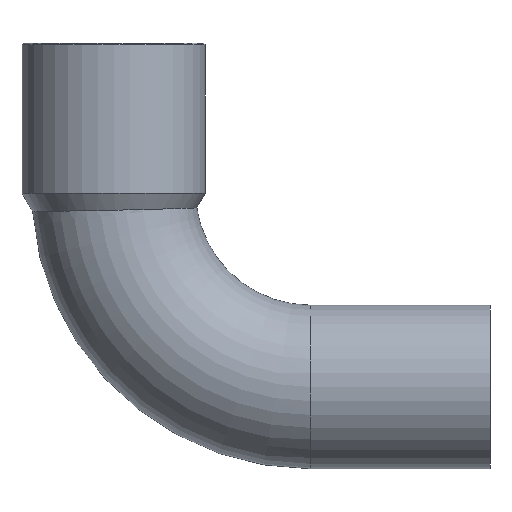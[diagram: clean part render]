
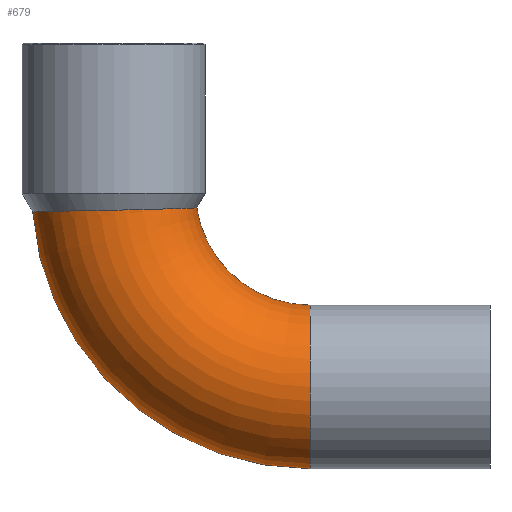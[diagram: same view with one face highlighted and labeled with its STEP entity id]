
A CAD part, front view. The second image highlights one B-rep face of the part: STEP entity #679.
In plain terms, the highlighted toroidal (fillet/blend) face has major radius 12 mm and minor radius 5 mm.
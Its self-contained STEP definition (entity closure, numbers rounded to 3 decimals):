
#49=CARTESIAN_POINT('',(5.084,0.,-1.284));
#50=VERTEX_POINT('',#49);
#51=CARTESIAN_POINT('',(22.035,0.,-17.0));
#52=VERTEX_POINT('',#51);
#53=CARTESIAN_POINT('',(22.035,0.,0.0));
#54=DIRECTION('',(0.0,-1.0,0.0));
#55=DIRECTION('',(0.0,0.0,-1.0));
#56=AXIS2_PLACEMENT_3D('',#53,#54,#55);
#57=CIRCLE('',#56,17.0);
#58=EDGE_CURVE('',#50,#52,#57,.T.);
#60=CARTESIAN_POINT('',(15.116,0.,-1.06));
#61=VERTEX_POINT('',#60);
#85=CARTESIAN_POINT('',(22.035,0.,-7.0));
#86=VERTEX_POINT('',#85);
#87=CARTESIAN_POINT('',(22.035,0.,0.0));
#88=DIRECTION('',(0.0,1.0,0.0));
#89=DIRECTION('',(0.0,0.0,-1.0));
#90=AXIS2_PLACEMENT_3D('',#87,#88,#89);
#91=CIRCLE('',#90,7.0);
#92=EDGE_CURVE('',#86,#61,#91,.T.);
#210=CARTESIAN_POINT('',(15.116,0.,-1.06));
#211=CARTESIAN_POINT('',(15.116,-0.042,-1.06));
#212=CARTESIAN_POINT('',(15.115,-0.084,-1.06));
#213=CARTESIAN_POINT('',(15.098,-0.776,-1.061));
#214=CARTESIAN_POINT('',(14.954,-1.415,-1.066));
#215=CARTESIAN_POINT('',(14.428,-2.607,-1.085));
#216=CARTESIAN_POINT('',(14.05,-3.147,-1.098));
#217=CARTESIAN_POINT('',(13.106,-4.053,-1.126));
#218=CARTESIAN_POINT('',(12.549,-4.41,-1.142));
#219=CARTESIAN_POINT('',(11.329,-4.89,-1.173));
#220=CARTESIAN_POINT('',(10.679,-5.009,-1.187));
#221=CARTESIAN_POINT('',(9.371,-4.99,-1.214));
#222=CARTESIAN_POINT('',(8.725,-4.854,-1.226));
#223=CARTESIAN_POINT('',(7.525,-4.342,-1.247));
#224=CARTESIAN_POINT('',(6.981,-3.971,-1.256));
#225=CARTESIAN_POINT('',(6.066,-3.044,-1.27));
#226=CARTESIAN_POINT('',(5.704,-2.497,-1.275));
#227=CARTESIAN_POINT('',(5.211,-1.294,-1.282));
#228=CARTESIAN_POINT('',(5.084,-0.65,-1.284));
#229=CARTESIAN_POINT('',(5.084,0.,-1.284));
#230=B_SPLINE_CURVE_WITH_KNOTS('',3,(#210,#211,#212,#213,#214,#215,#216,#217,#218,#219,#220,#221,#222,#223,#224,#225,#226,#227,#228,#229),.UNSPECIFIED.,.F.,.U.,(4,2,2,2,2,2,2,2,2,4),(-1.578,-1.566,-1.371,-1.175,-0.978,-0.782,-0.586,-0.39,-0.195,0.0),.UNSPECIFIED.);
#231=EDGE_CURVE('',#61,#50,#230,.T.);
#535=CARTESIAN_POINT('',(22.035,0.,-12.0));
#536=DIRECTION('',(-1.0,0.0,0.0));
#537=DIRECTION('',(0.0,0.0,-1.0));
#538=AXIS2_PLACEMENT_3D('',#535,#536,#537);
#539=CIRCLE('',#538,5.0);
#540=EDGE_CURVE('',#52,#86,#539,.T.);
#668=CARTESIAN_POINT('',(22.035,0.,0.0));
#669=DIRECTION('',(0.0,-1.0,0.0));
#670=DIRECTION('',(0.0,0.0,-1.0));
#671=AXIS2_PLACEMENT_3D('',#668,#669,#670);
#672=TOROIDAL_SURFACE('',#671,12.0,5.0);
#673=ORIENTED_EDGE('',*,*,#58,.T.);
#674=ORIENTED_EDGE('',*,*,#540,.T.);
#675=ORIENTED_EDGE('',*,*,#92,.T.);
#676=ORIENTED_EDGE('',*,*,#231,.T.);
#677=EDGE_LOOP('',(#673,#674,#675,#676));
#678=FACE_OUTER_BOUND('',#677,.T.);
#679=ADVANCED_FACE('',(#678),#672,.T.);
